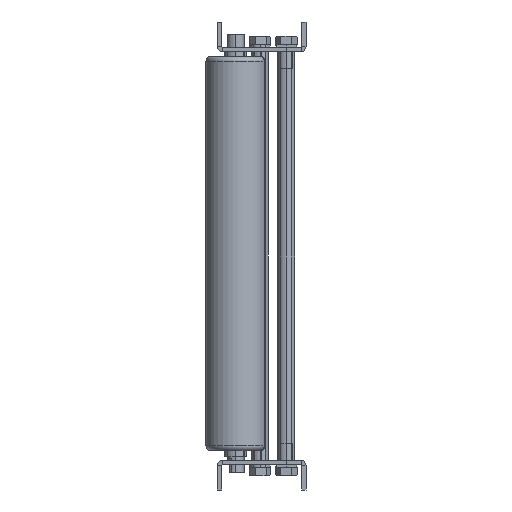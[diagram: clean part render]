
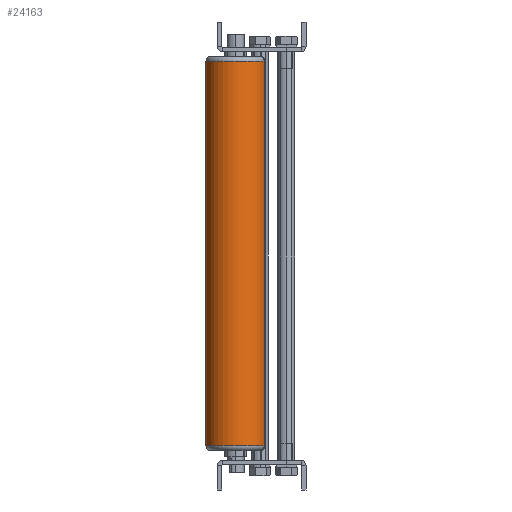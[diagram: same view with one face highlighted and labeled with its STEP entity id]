
A CAD part, left-side view. The second image highlights one B-rep face of the part: STEP entity #24163.
In plain terms, the highlighted cylindrical face has radius 30.25 mm (diameter 60.5 mm), a partial arc.
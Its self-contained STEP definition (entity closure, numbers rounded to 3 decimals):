
#540 = LINE ( 'NONE', #10739, #14625 ) ;
#2122 = DIRECTION ( 'NONE',  ( -0.262, -0.965, 0. ) ) ;
#3122 = EDGE_CURVE ( 'NONE', #39885, #6141, #3191, .T. ) ;
#3191 = CIRCLE ( 'NONE', #32310, 30.25 ) ;
#4108 = VECTOR ( 'NONE', #42548, 1000. ) ;
#6141 = VERTEX_POINT ( 'NONE', #40300 ) ;
#7948 = DIRECTION ( 'NONE',  ( 0., 0., 1. ) ) ;
#8190 = DIRECTION ( 'NONE',  ( 0.262, 0.965, 0. ) ) ;
#8857 = CIRCLE ( 'NONE', #9550, 30.25 ) ;
#9550 = AXIS2_PLACEMENT_3D ( 'NONE', #38436, #7948, #17530 ) ;
#10484 = ORIENTED_EDGE ( 'NONE', *, *, #3122, .T. ) ;
#10739 = CARTESIAN_POINT ( 'NONE',  ( -1515.85, 125.682, -20. ) ) ;
#12095 = EDGE_CURVE ( 'NONE', #39885, #31897, #32312, .T. ) ;
#12320 = AXIS2_PLACEMENT_3D ( 'NONE', #38678, #21979, #8190 ) ;
#14625 = VECTOR ( 'NONE', #27221, 1000. ) ;
#14876 = FACE_OUTER_BOUND ( 'NONE', #22338, .T. ) ;
#17089 = CARTESIAN_POINT ( 'NONE',  ( -1515.85, 125.682, -415. ) ) ;
#17530 = DIRECTION ( 'NONE',  ( -0.262, -0.965, 0. ) ) ;
#21979 = DIRECTION ( 'NONE',  ( 0., 0., -1. ) ) ;
#22289 = CARTESIAN_POINT ( 'NONE',  ( -1531.702, 67.296, -20. ) ) ;
#22338 = EDGE_LOOP ( 'NONE', ( #42432, #10484, #39851, #26647 ) ) ;
#24163 = ADVANCED_FACE ( 'NONE', ( #14876 ), #25080, .T. ) ;
#24810 = EDGE_CURVE ( 'NONE', #31932, #31897, #8857, .T. ) ;
#25080 = CYLINDRICAL_SURFACE ( 'NONE', #12320, 30.25 ) ;
#25625 = EDGE_CURVE ( 'NONE', #6141, #31932, #540, .T. ) ;
#26647 = ORIENTED_EDGE ( 'NONE', *, *, #24810, .T. ) ;
#27221 = DIRECTION ( 'NONE',  ( 0., 0., -1. ) ) ;
#30881 = CARTESIAN_POINT ( 'NONE',  ( -1531.702, 67.296, -415. ) ) ;
#31897 = VERTEX_POINT ( 'NONE', #30881 ) ;
#31932 = VERTEX_POINT ( 'NONE', #17089 ) ;
#32310 = AXIS2_PLACEMENT_3D ( 'NONE', #38160, #41731, #2122 ) ;
#32312 = LINE ( 'NONE', #22289, #4108 ) ;
#38160 = CARTESIAN_POINT ( 'NONE',  ( -1523.776, 96.489, -25. ) ) ;
#38436 = CARTESIAN_POINT ( 'NONE',  ( -1523.776, 96.489, -415. ) ) ;
#38678 = CARTESIAN_POINT ( 'NONE',  ( -1523.776, 96.489, -20. ) ) ;
#39851 = ORIENTED_EDGE ( 'NONE', *, *, #25625, .T. ) ;
#39885 = VERTEX_POINT ( 'NONE', #40213 ) ;
#40213 = CARTESIAN_POINT ( 'NONE',  ( -1531.702, 67.296, -25. ) ) ;
#40300 = CARTESIAN_POINT ( 'NONE',  ( -1515.85, 125.682, -25. ) ) ;
#41731 = DIRECTION ( 'NONE',  ( 0., 0., -1. ) ) ;
#42432 = ORIENTED_EDGE ( 'NONE', *, *, #12095, .F. ) ;
#42548 = DIRECTION ( 'NONE',  ( 0., 0., -1. ) ) ;
